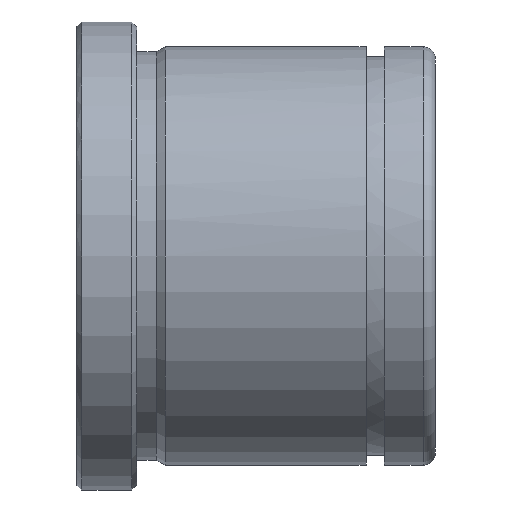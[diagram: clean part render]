
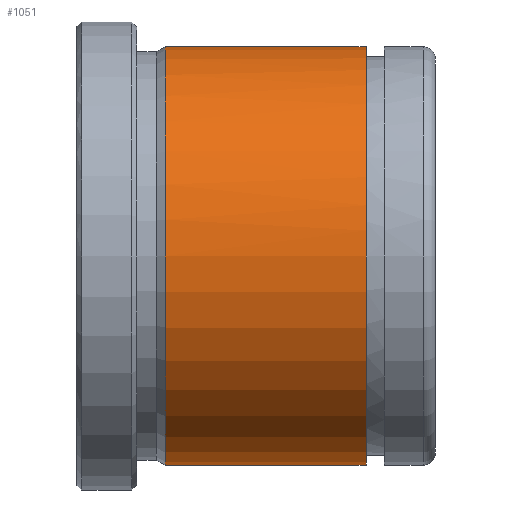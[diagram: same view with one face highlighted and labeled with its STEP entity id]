
A CAD part, front view. The second image highlights one B-rep face of the part: STEP entity #1051.
In plain terms, the highlighted cylindrical face has radius 21 mm (diameter 42 mm), a partial arc.
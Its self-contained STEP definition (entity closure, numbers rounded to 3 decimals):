
#851=CARTESIAN_POINT('Vertex',(8.866,0.,-21.)) ;
#858=CARTESIAN_POINT('Vertex',(8.866,0.,21.)) ;
#887=CARTESIAN_POINT('Axis2P3D Location',(8.866,0.,0.)) ;
#891=CARTESIAN_POINT('Vertex',(8.866,-21.,0.)) ;
#894=CARTESIAN_POINT('Axis2P3D Location',(8.866,0.,0.)) ;
#985=CARTESIAN_POINT('Line Origine',(72.,0.,21.)) ;
#989=CARTESIAN_POINT('Vertex',(29.05,0.,21.)) ;
#1006=CARTESIAN_POINT('Vertex',(29.05,0.,-21.)) ;
#1009=CARTESIAN_POINT('Line Origine',(72.,0.,-21.)) ;
#1023=CARTESIAN_POINT('Axis2P3D Location',(72.,0.,0.)) ;
#1028=CARTESIAN_POINT('Axis2P3D Location',(29.05,0.,0.)) ;
#1032=CARTESIAN_POINT('Vertex',(29.05,-21.,0.)) ;
#1036=CARTESIAN_POINT('Control Point',(29.05,0.,21.)) ;
#1037=CARTESIAN_POINT('Control Point',(29.05,-6.597,21.)) ;
#1038=CARTESIAN_POINT('Control Point',(29.05,-13.201,18.417)) ;
#1039=CARTESIAN_POINT('Control Point',(29.05,-18.417,13.201)) ;
#1040=CARTESIAN_POINT('Control Point',(29.05,-21.,6.597)) ;
#1041=CARTESIAN_POINT('Control Point',(29.05,-21.,0.)) ;
#888=DIRECTION('Axis2P3D Direction',(1.,0.,-0.)) ;
#895=DIRECTION('Axis2P3D Direction',(1.,0.,-0.)) ;
#986=DIRECTION('Vector Direction',(-1.,0.,0.)) ;
#1010=DIRECTION('Vector Direction',(-1.,0.,0.)) ;
#1024=DIRECTION('Axis2P3D Direction',(-1.,-0.,-0.)) ;
#1025=DIRECTION('Axis2P3D XDirection',(0.,0.,-1.)) ;
#1029=DIRECTION('Axis2P3D Direction',(-1.,-0.,-0.)) ;
#889=AXIS2_PLACEMENT_3D('Circle Axis2P3D',#887,#888,$) ;
#896=AXIS2_PLACEMENT_3D('Circle Axis2P3D',#894,#895,$) ;
#1026=AXIS2_PLACEMENT_3D('Cylinder Axis2P3D',#1023,#1024,#1025) ;
#1030=AXIS2_PLACEMENT_3D('Circle Axis2P3D',#1028,#1029,$) ;
#1044=ORIENTED_EDGE('',*,*,#1013,.T.) ;
#1045=ORIENTED_EDGE('',*,*,#1034,.F.) ;
#1046=ORIENTED_EDGE('',*,*,#1042,.F.) ;
#1047=ORIENTED_EDGE('',*,*,#991,.T.) ;
#1048=ORIENTED_EDGE('',*,*,#898,.T.) ;
#1049=ORIENTED_EDGE('',*,*,#893,.T.) ;
#987=VECTOR('Line Direction',#986,1.) ;
#1011=VECTOR('Line Direction',#1010,1.) ;
#1051=ADVANCED_FACE('553-32X36',(#1050),#1027,.T.) ;
#1035=B_SPLINE_CURVE_WITH_KNOTS('',5,(#1036,#1037,#1038,#1039,#1040,#1041),.UNSPECIFIED.,.F.,.U.,(6,6),(-16.493,16.493),.UNSPECIFIED.) ;
#890=CIRCLE('generated circle',#889,21.) ;
#897=CIRCLE('generated circle',#896,21.) ;
#1031=CIRCLE('generated circle',#1030,21.) ;
#1027=CYLINDRICAL_SURFACE('generated cylinder',#1026,21.) ;
#893=EDGE_CURVE('',#892,#852,#890,.T.) ;
#898=EDGE_CURVE('',#859,#892,#897,.T.) ;
#991=EDGE_CURVE('',#990,#859,#988,.T.) ;
#1013=EDGE_CURVE('',#852,#1007,#1012,.F.) ;
#1034=EDGE_CURVE('',#1033,#1007,#1031,.F.) ;
#1042=EDGE_CURVE('',#990,#1033,#1035,.T.) ;
#1043=EDGE_LOOP('',(#1044,#1045,#1046,#1047,#1048,#1049)) ;
#1050=FACE_OUTER_BOUND('',#1043,.T.) ;
#988=LINE('Line',#985,#987) ;
#1012=LINE('Line',#1009,#1011) ;
#852=VERTEX_POINT('',#851) ;
#859=VERTEX_POINT('',#858) ;
#892=VERTEX_POINT('',#891) ;
#990=VERTEX_POINT('',#989) ;
#1007=VERTEX_POINT('',#1006) ;
#1033=VERTEX_POINT('',#1032) ;
